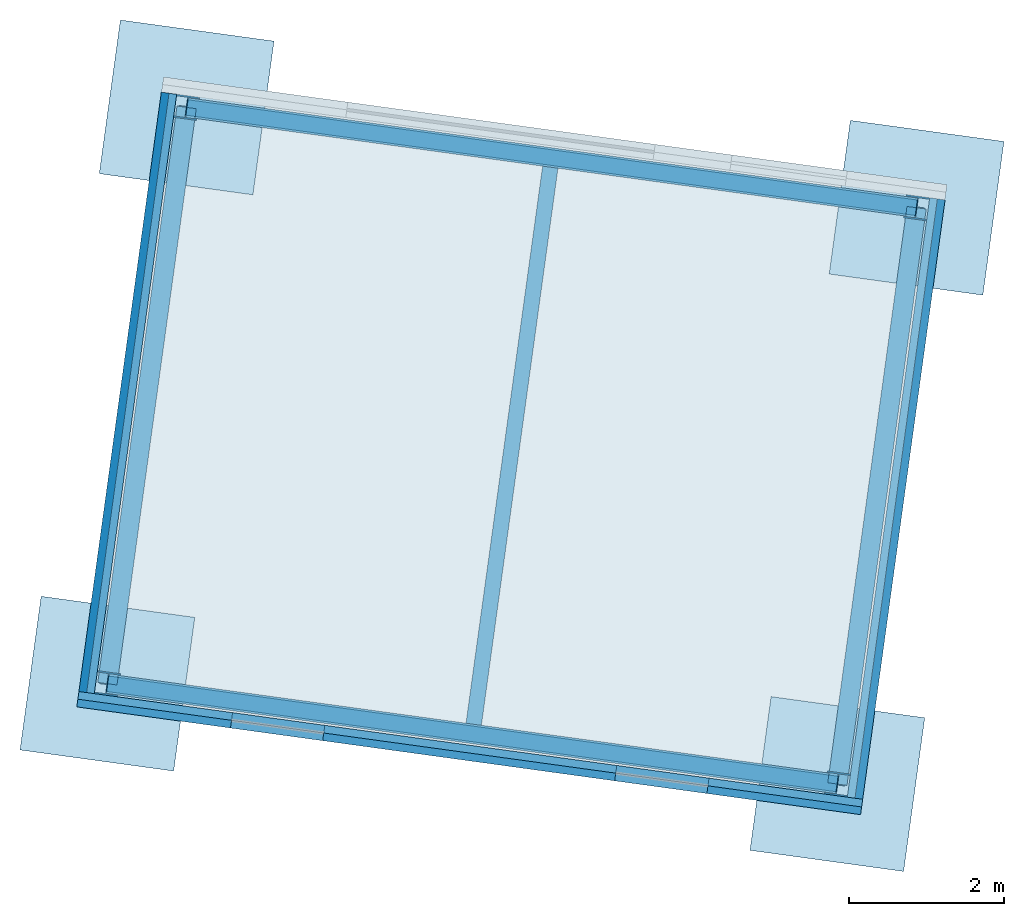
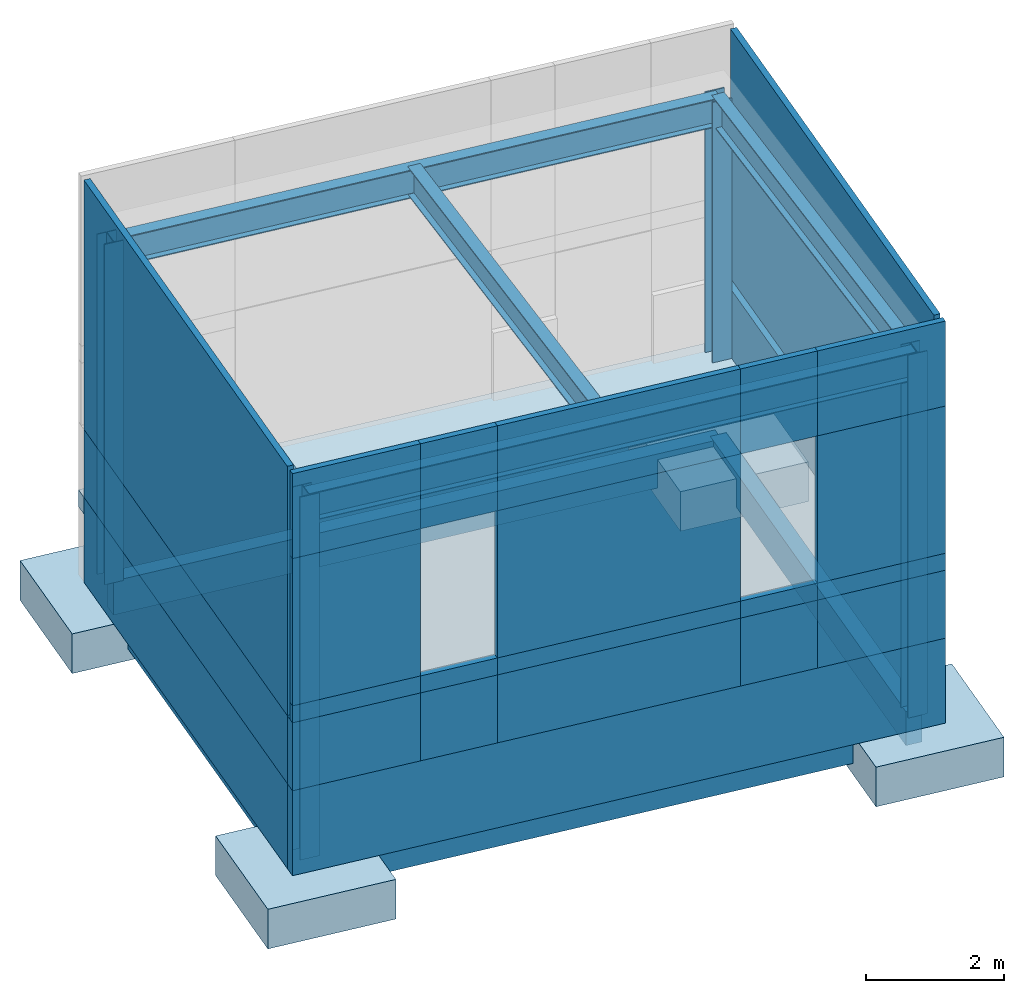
# One storey, part 1 of 3: 24 walls, 9 beams, 4 columns, 4 footings, 1 slab.
"""IFC4 building model written with IfcOpenShell, lengths in metres."""

import ifcopenshell
import ifcopenshell.guid

model = None  # the IFC model being written
_history = None  # IfcOwnerHistory: only IFC2X3 demands one
_inside = {}  # id of a spatial element -> (the spatial element, [elements in it])
_under = {}  # id of a project, library or spatial element -> (it, [spatial elements below it])
_declared = {}  # id of a project -> (the project, [libraries it declares])
_typed = {}  # id of a type object -> (the type object, [elements of that type])
_made_of = {}  # id of a material, layer set ... -> (it, [elements and type objects made of it])


def new_model(schema):
    """Start an empty IFC model of exactly this schema.

    Asked for "IFC4X3", IfcOpenShell would pick the latest addendum, in which some entities
    have other attributes; the version numbers below select the first issue.
    IFC2X3 requires an IfcOwnerHistory on every rooted entity: one is made here for all.
    """
    global model, _history
    if schema == "IFC4X3":
        model = ifcopenshell.file(schema_version=(4, 3, 0, 0))
    else:
        model = ifcopenshell.file(schema=schema)
    _inside.clear()
    _under.clear()
    _declared.clear()
    _typed.clear()
    _made_of.clear()
    _history = None
    if model.schema == "IFC2X3":
        org = make("IfcOrganization", Name="unknown")
        user = make(
            "IfcPersonAndOrganization",
            ThePerson=make("IfcPerson", FamilyName="unknown"),
            TheOrganization=org,
        )
        app = make(
            "IfcApplication",
            ApplicationDeveloper=org,
            Version="unknown",
            ApplicationFullName="unknown",
            ApplicationIdentifier="unknown",
        )
        _history = make(
            "IfcOwnerHistory",
            OwningUser=user,
            OwningApplication=app,
            ChangeAction="ADDED",
            CreationDate=0,
        )
    return model


def make(cls, **values):
    """One entity of the class cls with the attributes given. An attribute that is None is left unset."""
    return model.create_entity(
        cls, **{name: value for name, value in values.items() if value is not None}
    )


def rooted(cls, **values):
    """An entity with a GlobalId (a new one), such as an element, a storey or a relation."""
    return make(cls, GlobalId=ifcopenshell.guid.new(), OwnerHistory=_history, **values)


def si_unit(unit_type, name, prefix=None):
    """IfcSIUnit, for example si_unit("LENGTHUNIT", "METRE", prefix="MILLI")."""
    return make("IfcSIUnit", UnitType=unit_type, Prefix=prefix, Name=name)


def assignment(units):
    """IfcUnitAssignment: the units of a project."""
    return None if units is None else make("IfcUnitAssignment", Units=units)


def point(xyz):
    """IfcCartesianPoint."""
    return None if xyz is None else make("IfcCartesianPoint", Coordinates=xyz)


def direction(xyz):
    """IfcDirection."""
    return None if xyz is None else make("IfcDirection", DirectionRatios=xyz)


def frame(location, z_axis=None, x_axis=None):
    """IfcAxis2Placement3D, a coordinate frame: its origin and axes. An axis left out is left unset."""
    return make(
        "IfcAxis2Placement3D",
        Location=point(location),
        Axis=direction(z_axis),
        RefDirection=direction(x_axis),
    )


def origin_with_axes():
    """The frame at (0, 0, 0) with the z axis (0, 0, 1) and the x axis (1, 0, 0) written out."""
    return frame((0.0, 0.0, 0.0), z_axis=(0.0, 0.0, 1.0), x_axis=(1.0, 0.0, 0.0))


def place(relative_to, where):
    """IfcLocalPlacement: puts the frame where relative to a parent placement (None: the world)."""
    return make(
        "IfcLocalPlacement", PlacementRelTo=relative_to, RelativePlacement=where
    )


def context(
    kind, dimensions, precision=None, world=None, true_north=None, identifier=None
):
    """IfcGeometricRepresentationContext, for example the 3D "Model" context."""
    return make(
        "IfcGeometricRepresentationContext",
        ContextIdentifier=identifier,
        ContextType=kind,
        CoordinateSpaceDimension=dimensions,
        Precision=precision,
        WorldCoordinateSystem=world,
        TrueNorth=true_north,
    )


def subcontext(parent, identifier, kind, view, scale=None):
    """IfcGeometricRepresentationSubContext, for example "Body" below "Model"."""
    return make(
        "IfcGeometricRepresentationSubContext",
        ContextIdentifier=identifier,
        ContextType=kind,
        ParentContext=parent,
        TargetScale=scale,
        TargetView=view,
    )


def project(units=None, contexts=None):
    """IfcProject with its units and contexts."""
    return rooted(
        "IfcProject",
        Name="project",
        RepresentationContexts=contexts,
        UnitsInContext=assignment(units),
    )


def spatial(cls, under=None, at=None, **own):
    """A site, building, storey or space (cls), placed at a placement, below another one or the project."""
    s = rooted(cls, ObjectPlacement=at, **own)
    if under is not None:
        _under.setdefault(under.id(), (under, []))[1].append(s)
    return s


def point_list(points):
    """IfcCartesianPointList2D or 3D."""
    cls = (
        "IfcCartesianPointList2D" if len(points[0]) == 2 else "IfcCartesianPointList3D"
    )
    return make(cls, CoordList=points)


def triangles(points, corners, closed=None, point_numbers=None):
    """IfcTriangulatedFaceSet: each triangle names its three corners, points numbered from 1."""
    return make(
        "IfcTriangulatedFaceSet",
        Coordinates=point_list(points),
        Closed=closed,
        CoordIndex=corners,
        PnIndex=point_numbers,
    )


def shape(context_of_items, identifier, shape_type, items):
    """IfcShapeRepresentation: the items that make up one representation, for example the "Body"."""
    return make(
        "IfcShapeRepresentation",
        ContextOfItems=context_of_items,
        RepresentationIdentifier=identifier,
        RepresentationType=shape_type,
        Items=items,
    )


def material(Name=None, Category=None):
    """IfcMaterial."""
    return make("IfcMaterial", Name=Name, Category=Category)


def made_of(thing, what):
    """Note that an element or type object is made of a material, layer set ...; save() writes the relation."""
    if what is not None:
        _made_of.setdefault(what.id(), (what, []))[1].append(thing)
    return thing


def element(
    cls,
    number,
    at=None,
    inside=None,
    cuts=None,
    type_object=None,
    material=None,
    context=None,
    identifier="Body",
    shape_type=None,
    held_by="IfcProductDefinitionShape",
    body=None,
    shapes=None,
    **own,
):
    """One element of the class cls, such as IfcWall. Its Tag is "e" and its number.

    at: its placement. inside: the storey or other place that contains it. cuts: it is an
    opening in that element (IfcRelVoidsElement). A single representation is given by context,
    identifier, shape_type and body (its items); several are given by shapes. held_by: the class
    of the entity that holds the representations. save() writes the other relations.
    """
    e = rooted(cls, Tag="e%d" % number, ObjectPlacement=at, **own)
    if body is not None:
        shapes = [shape(context, identifier, shape_type, body)]
    if shapes is not None:
        e.Representation = make(held_by, Representations=shapes)
    if inside is not None:
        _inside.setdefault(inside.id(), (inside, []))[1].append(e)
    if cuts is not None:
        rooted(
            "IfcRelVoidsElement", RelatingBuildingElement=cuts, RelatedOpeningElement=e
        )
    if type_object is not None:
        _typed.setdefault(type_object.id(), (type_object, []))[1].append(e)
    return made_of(e, material)


def aggregate(whole, parts):
    """IfcRelAggregates: a whole, such as a stair, and the parts it consists of."""
    return rooted("IfcRelAggregates", RelatingObject=whole, RelatedObjects=parts)


def save(model, path):
    """Write the relations noted so far, then the file.

    IfcRelAggregates (storeys below a building ...), IfcRelContainedInSpatialStructure (elements
    in a storey), IfcRelDefinesByType, IfcRelAssociatesMaterial and IfcRelDeclares: one each for
    every whole, place, type object, material and project.
    """
    for whole, parts in _under.values():
        aggregate(whole, parts)
    for where, things in _inside.values():
        rooted(
            "IfcRelContainedInSpatialStructure",
            RelatedElements=things,
            RelatingStructure=where,
        )
    for kind, things in _typed.values():
        rooted("IfcRelDefinesByType", RelatedObjects=things, RelatingType=kind)
    for what, things in _made_of.values():
        rooted("IfcRelAssociatesMaterial", RelatedObjects=things, RelatingMaterial=what)
    for by, libraries in _declared.values():
        rooted("IfcRelDeclares", RelatingContext=by, RelatedDefinitions=libraries)
    model.write(path)


model = new_model("IFC4")

# Units and contexts
model_context = context("Model", 3, precision=1e-05, world=origin_with_axes(), true_north=direction((0.0, 1.0)))
body_context = subcontext(model_context, "Body", "Model", "MODEL_VIEW")
ifc_project = project(units=[si_unit("AREAUNIT", "SQUARE_METRE"), si_unit("VOLUMEUNIT", "CUBIC_METRE"), si_unit("LENGTHUNIT", "METRE")], contexts=[model_context])

# Site, building, storey
site_placement = place(None, origin_with_axes())
site = spatial("IfcSite", under=ifc_project, at=site_placement, Name="Parcela industrial Jinhong")
building_placement = place(site_placement, origin_with_axes())
building = spatial("IfcBuilding", under=site, at=building_placement, Name="Sala de bombas contra incendios")
storey_placement = place(building_placement, origin_with_axes())
storey = spatial("IfcBuildingStorey", under=building, at=storey_placement, Name="Planta baja", Elevation=1.25)

# Footings
ifc_material_1 = material(Name="Hormigón armado HA-30", Category="Material documentado")
footing_1_placement = place(storey_placement, origin_with_axes())
element("IfcFooting", 1, at=footing_1_placement, inside=storey, material=ifc_material_1, Name="Sala de bombas contra incendios · zapata aislada BASE1 · 1", PredefinedType="PAD_FOOTING", context=body_context, shape_type="Tessellation", body=[
    triangles([(7.383617, 26.238439, -0.95), (9.364978, 25.966031, -0.95), (9.637386, 27.947392, -0.95), (7.656024, 28.2198, -0.95), (7.383617, 26.238439, -0.25), (9.364978, 25.966031, -0.25), (9.637386, 27.947392, -0.25), (7.656024, 28.2198, -0.25)], [[2, 1, 4], [4, 3, 2], [8, 5, 6], [6, 7, 8], [1, 2, 6], [1, 6, 5], [2, 3, 7], [2, 7, 6], [3, 4, 8], [3, 8, 7], [4, 1, 5], [4, 5, 8]], closed=True),
])
footing_2_placement = place(storey_placement, origin_with_axes())
element("IfcFooting", 2, at=footing_2_placement, inside=storey, material=ifc_material_1, Name="Sala de bombas contra incendios · zapata aislada BASE1 · 2", PredefinedType="PAD_FOOTING", context=body_context, shape_type="Tessellation", body=[
    triangles([(16.795084, 24.944501, -0.95), (18.776446, 24.672094, -0.95), (19.048854, 26.653455, -0.95), (17.067492, 26.925863, -0.95), (16.795084, 24.944501, -0.25), (18.776446, 24.672094, -0.25), (19.048854, 26.653455, -0.25), (17.067492, 26.925863, -0.25)], [[2, 1, 4], [4, 3, 2], [8, 5, 6], [6, 7, 8], [1, 2, 6], [1, 6, 5], [2, 3, 7], [2, 7, 6], [3, 4, 8], [3, 8, 7], [4, 1, 5], [4, 5, 8]], closed=True),
])
footing_3_placement = place(storey_placement, origin_with_axes())
element("IfcFooting", 3, at=footing_3_placement, inside=storey, material=ifc_material_1, Name="Sala de bombas contra incendios · zapata aislada BASE1 · 3", PredefinedType="PAD_FOOTING", context=body_context, shape_type="Tessellation", body=[
    triangles([(8.405146, 33.668545, -0.95), (10.386508, 33.396137, -0.95), (10.658916, 35.377499, -0.95), (8.677554, 35.649906, -0.95), (8.405146, 33.668545, -0.25), (10.386508, 33.396137, -0.25), (10.658916, 35.377499, -0.25), (8.677554, 35.649906, -0.25)], [[2, 1, 4], [4, 3, 2], [8, 5, 6], [6, 7, 8], [1, 2, 6], [1, 6, 5], [2, 3, 7], [2, 7, 6], [3, 4, 8], [3, 8, 7], [4, 1, 5], [4, 5, 8]], closed=True),
])
footing_4_placement = place(storey_placement, origin_with_axes())
element("IfcFooting", 4, at=footing_4_placement, inside=storey, material=ifc_material_1, Name="Sala de bombas contra incendios · zapata aislada BASE1 · 4", PredefinedType="PAD_FOOTING", context=body_context, shape_type="Tessellation", body=[
    triangles([(17.816614, 32.374608, -0.95), (19.797976, 32.1022, -0.95), (20.070383, 34.083561, -0.95), (18.089022, 34.355969, -0.95), (17.816614, 32.374608, -0.25), (19.797976, 32.1022, -0.25), (20.070383, 34.083561, -0.25), (18.089022, 34.355969, -0.25)], [[2, 1, 4], [4, 3, 2], [8, 5, 6], [6, 7, 8], [1, 2, 6], [1, 6, 5], [2, 3, 7], [2, 7, 6], [3, 4, 8], [3, 8, 7], [4, 1, 5], [4, 5, 8]], closed=True),
])

# Columns
ifc_material_2 = material(Name="Acero estructural S355JR", Category="Material documentado")
column_1_placement = place(storey_placement, origin_with_axes())
element("IfcColumn", 5, at=column_1_placement, inside=storey, material=ifc_material_2, Name="Sala de bombas contra incendios · pilar HEB300 · 1", PredefinedType="COLUMN", context=body_context, shape_type="Tessellation", body=[
    triangles([(8.341469, 26.964744, -0.16), (8.638673, 26.923883, -0.16), (8.641261, 26.942706, -0.16), (8.498107, 26.962387, -0.16), (8.533793, 27.221946, -0.16), (8.676946, 27.202264, -0.16), (8.679534, 27.221087, -0.16), (8.38233, 27.261948, -0.16), (8.379742, 27.243125, -0.16), (8.522895, 27.223444, -0.16), (8.48721, 26.963885, -0.16), (8.344057, 26.983567, -0.16), (8.341469, 26.964744, 6.25), (8.638673, 26.923883, 6.25), (8.641261, 26.942706, 6.25), (8.498107, 26.962387, 6.25), (8.533793, 27.221946, 6.25), (8.676946, 27.202264, 6.25), (8.679534, 27.221087, 6.25), (8.38233, 27.261948, 6.25), (8.379742, 27.243125, 6.25), (8.522895, 27.223444, 6.25), (8.48721, 26.963885, 6.25), (8.344057, 26.983567, 6.25)], [[2, 1, 12], [4, 3, 2], [7, 6, 5], [8, 7, 5], [10, 9, 8], [10, 8, 5], [10, 5, 4], [11, 10, 4], [11, 4, 2], [12, 11, 2], [24, 13, 14], [14, 15, 16], [17, 18, 19], [17, 19, 20], [20, 21, 22], [17, 20, 22], [16, 17, 22], [16, 22, 23], [14, 16, 23], [14, 23, 24], [1, 2, 14], [1, 14, 13], [2, 3, 15], [2, 15, 14], [3, 4, 16], [3, 16, 15], [4, 5, 17], [4, 17, 16], [5, 6, 18], [5, 18, 17], [6, 7, 19], [6, 19, 18], [7, 8, 20], [7, 20, 19], [8, 9, 21], [8, 21, 20], [9, 10, 22], [9, 22, 21], [10, 11, 23], [10, 23, 22], [11, 12, 24], [11, 24, 23], [12, 1, 13], [12, 13, 24]], closed=True),
])
column_2_placement = place(storey_placement, origin_with_axes())
element("IfcColumn", 6, at=column_2_placement, inside=storey, material=ifc_material_2, Name="Sala de bombas contra incendios · pilar HEB300 · 2", PredefinedType="COLUMN", context=body_context, shape_type="Tessellation", body=[
    triangles([(17.752936, 25.670807, -0.16), (18.050141, 25.629946, -0.16), (18.052729, 25.648768, -0.16), (17.909575, 25.66845, -0.16), (17.945261, 25.928008, -0.16), (18.088414, 25.908327, -0.16), (18.091002, 25.92715, -0.16), (17.793798, 25.968011, -0.16), (17.79121, 25.949188, -0.16), (17.934363, 25.929507, -0.16), (17.898678, 25.669948, -0.16), (17.755524, 25.68963, -0.16), (17.752936, 25.670807, 6.25), (18.050141, 25.629946, 6.25), (18.052729, 25.648768, 6.25), (17.909575, 25.66845, 6.25), (17.945261, 25.928008, 6.25), (18.088414, 25.908327, 6.25), (18.091002, 25.92715, 6.25), (17.793798, 25.968011, 6.25), (17.79121, 25.949188, 6.25), (17.934363, 25.929507, 6.25), (17.898678, 25.669948, 6.25), (17.755524, 25.68963, 6.25)], [[2, 1, 12], [4, 3, 2], [7, 6, 5], [8, 7, 5], [10, 9, 8], [10, 8, 5], [10, 5, 4], [11, 10, 4], [11, 4, 2], [12, 11, 2], [24, 13, 14], [14, 15, 16], [17, 18, 19], [17, 19, 20], [20, 21, 22], [17, 20, 22], [16, 17, 22], [16, 22, 23], [14, 16, 23], [14, 23, 24], [1, 2, 14], [1, 14, 13], [2, 3, 15], [2, 15, 14], [3, 4, 16], [3, 16, 15], [4, 5, 17], [4, 17, 16], [5, 6, 18], [5, 18, 17], [6, 7, 19], [6, 19, 18], [7, 8, 20], [7, 20, 19], [8, 9, 21], [8, 21, 20], [9, 10, 22], [9, 22, 21], [10, 11, 23], [10, 23, 22], [11, 12, 24], [11, 24, 23], [12, 1, 13], [12, 13, 24]], closed=True),
])
column_3_placement = place(storey_placement, origin_with_axes())
element("IfcColumn", 7, at=column_3_placement, inside=storey, material=ifc_material_2, Name="Sala de bombas contra incendios · pilar HEB300 · 3", PredefinedType="COLUMN", context=body_context, shape_type="Tessellation", body=[
    triangles([(9.362998, 34.39485, -0.16), (9.660202, 34.353989, -0.16), (9.66279, 34.372812, -0.16), (9.519637, 34.392493, -0.16), (9.555322, 34.652052, -0.16), (9.698476, 34.63237, -0.16), (9.701064, 34.651193, -0.16), (9.403859, 34.692054, -0.16), (9.401271, 34.673232, -0.16), (9.544425, 34.65355, -0.16), (9.508739, 34.393992, -0.16), (9.365586, 34.413673, -0.16), (9.362998, 34.39485, 5.85), (9.660202, 34.353989, 5.85), (9.66279, 34.372812, 5.85), (9.519637, 34.392493, 5.85), (9.555322, 34.652052, 5.85), (9.698476, 34.63237, 5.85), (9.701064, 34.651193, 5.85), (9.403859, 34.692054, 5.85), (9.401271, 34.673232, 5.85), (9.544425, 34.65355, 5.85), (9.508739, 34.393992, 5.85), (9.365586, 34.413673, 5.85)], [[2, 1, 12], [4, 3, 2], [7, 6, 5], [8, 7, 5], [10, 9, 8], [10, 8, 5], [10, 5, 4], [11, 10, 4], [11, 4, 2], [12, 11, 2], [24, 13, 14], [14, 15, 16], [17, 18, 19], [17, 19, 20], [20, 21, 22], [17, 20, 22], [16, 17, 22], [16, 22, 23], [14, 16, 23], [14, 23, 24], [1, 2, 14], [1, 14, 13], [2, 3, 15], [2, 15, 14], [3, 4, 16], [3, 16, 15], [4, 5, 17], [4, 17, 16], [5, 6, 18], [5, 18, 17], [6, 7, 19], [6, 19, 18], [7, 8, 20], [7, 20, 19], [8, 9, 21], [8, 21, 20], [9, 10, 22], [9, 22, 21], [10, 11, 23], [10, 23, 22], [11, 12, 24], [11, 24, 23], [12, 1, 13], [12, 13, 24]], closed=True),
])
column_4_placement = place(storey_placement, origin_with_axes())
element("IfcColumn", 8, at=column_4_placement, inside=storey, material=ifc_material_2, Name="Sala de bombas contra incendios · pilar HEB300 · 4", PredefinedType="COLUMN", context=body_context, shape_type="Tessellation", body=[
    triangles([(18.774466, 33.100913, -0.16), (19.07167, 33.060052, -0.16), (19.074258, 33.078875, -0.16), (18.931105, 33.098556, -0.16), (18.96679, 33.358115, -0.16), (19.109943, 33.338433, -0.16), (19.112531, 33.357256, -0.16), (18.815327, 33.398117, -0.16), (18.812739, 33.379294, -0.16), (18.955893, 33.359613, -0.16), (18.920207, 33.100054, -0.16), (18.777054, 33.119736, -0.16), (18.774466, 33.100913, 5.85), (19.07167, 33.060052, 5.85), (19.074258, 33.078875, 5.85), (18.931105, 33.098556, 5.85), (18.96679, 33.358115, 5.85), (19.109943, 33.338433, 5.85), (19.112531, 33.357256, 5.85), (18.815327, 33.398117, 5.85), (18.812739, 33.379294, 5.85), (18.955893, 33.359613, 5.85), (18.920207, 33.100054, 5.85), (18.777054, 33.119736, 5.85)], [[2, 1, 12], [4, 3, 2], [7, 6, 5], [8, 7, 5], [10, 9, 8], [10, 8, 5], [10, 5, 4], [11, 10, 4], [11, 4, 2], [12, 11, 2], [24, 13, 14], [14, 15, 16], [17, 18, 19], [17, 19, 20], [20, 21, 22], [17, 20, 22], [16, 17, 22], [16, 22, 23], [14, 16, 23], [14, 23, 24], [1, 2, 14], [1, 14, 13], [2, 3, 15], [2, 15, 14], [3, 4, 16], [3, 16, 15], [4, 5, 17], [4, 17, 16], [5, 6, 18], [5, 18, 17], [6, 7, 19], [6, 19, 18], [7, 8, 20], [7, 20, 19], [8, 9, 21], [8, 21, 20], [9, 10, 22], [9, 22, 21], [10, 11, 23], [10, 23, 22], [11, 12, 24], [11, 24, 23], [12, 1, 13], [12, 13, 24]], closed=True),
])

# Beams
ifc_material_3 = material(Name="Acero estructural S355JR", Category="Material documentado")
beam_1_placement = place(storey_placement, origin_with_axes())
element("IfcBeam", 9, at=beam_1_placement, inside=storey, material=ifc_material_3, Name="Sala de bombas contra incendios · viga de cubierta IPE500 · 1", PredefinedType="BEAM", context=body_context, shape_type="Tessellation", body=[
    triangles([(8.496881, 26.993847, 5.7375), (8.524122, 27.191984, 5.7375), (8.524122, 27.191984, 5.7535), (8.511196, 27.097968, 5.7535), (8.511196, 27.097968, 6.2215), (8.524122, 27.191984, 6.2215), (8.524122, 27.191984, 6.2375), (8.496881, 26.993847, 6.2375), (8.496881, 26.993847, 6.2215), (8.509807, 27.087863, 6.2215), (8.509807, 27.087863, 5.7535), (8.496881, 26.993847, 5.7535), (17.908349, 25.69991, 5.7375), (17.93559, 25.898046, 5.7375), (17.93559, 25.898046, 5.7535), (17.922664, 25.804031, 5.7535), (17.922664, 25.804031, 6.2215), (17.93559, 25.898046, 6.2215), (17.93559, 25.898046, 6.2375), (17.908349, 25.69991, 6.2375), (17.908349, 25.69991, 6.2215), (17.921275, 25.793926, 6.2215), (17.921275, 25.793926, 5.7535), (17.908349, 25.69991, 5.7535)], [[2, 1, 12], [4, 3, 2], [7, 6, 5], [8, 7, 5], [10, 9, 8], [10, 8, 5], [10, 5, 4], [11, 10, 4], [11, 4, 2], [12, 11, 2], [24, 13, 14], [14, 15, 16], [17, 18, 19], [17, 19, 20], [20, 21, 22], [17, 20, 22], [16, 17, 22], [16, 22, 23], [14, 16, 23], [14, 23, 24], [1, 2, 14], [1, 14, 13], [2, 3, 15], [2, 15, 14], [3, 4, 16], [3, 16, 15], [4, 5, 17], [4, 17, 16], [5, 6, 18], [5, 18, 17], [6, 7, 19], [6, 19, 18], [7, 8, 20], [7, 20, 19], [8, 9, 21], [8, 21, 20], [9, 10, 22], [9, 22, 21], [10, 11, 23], [10, 23, 22], [11, 12, 24], [11, 24, 23], [12, 1, 13], [12, 13, 24]], closed=True),
])
beam_2_placement = place(storey_placement, origin_with_axes())
element("IfcBeam", 10, at=beam_2_placement, inside=storey, material=ifc_material_3, Name="Sala de bombas contra incendios · viga de cubierta IPE500 · 2", PredefinedType="BEAM", context=body_context, shape_type="Tessellation", body=[
    triangles([(9.51841, 34.423954, 5.3625), (9.545651, 34.62209, 5.3625), (9.545651, 34.62209, 5.3785), (9.532725, 34.528074, 5.3785), (9.532725, 34.528074, 5.8465), (9.545651, 34.62209, 5.8465), (9.545651, 34.62209, 5.8625), (9.51841, 34.423954, 5.8625), (9.51841, 34.423954, 5.8465), (9.531336, 34.517969, 5.8465), (9.531336, 34.517969, 5.3785), (9.51841, 34.423954, 5.3785), (18.929878, 33.130016, 5.3625), (18.957119, 33.328153, 5.3625), (18.957119, 33.328153, 5.3785), (18.944193, 33.234137, 5.3785), (18.944193, 33.234137, 5.8465), (18.957119, 33.328153, 5.8465), (18.957119, 33.328153, 5.8625), (18.929878, 33.130016, 5.8625), (18.929878, 33.130016, 5.8465), (18.942804, 33.224032, 5.8465), (18.942804, 33.224032, 5.3785), (18.929878, 33.130016, 5.3785)], [[2, 1, 12], [4, 3, 2], [7, 6, 5], [8, 7, 5], [10, 9, 8], [10, 8, 5], [10, 5, 4], [11, 10, 4], [11, 4, 2], [12, 11, 2], [24, 13, 14], [14, 15, 16], [17, 18, 19], [17, 19, 20], [20, 21, 22], [17, 20, 22], [16, 17, 22], [16, 22, 23], [14, 16, 23], [14, 23, 24], [1, 2, 14], [1, 14, 13], [2, 3, 15], [2, 15, 14], [3, 4, 16], [3, 16, 15], [4, 5, 17], [4, 17, 16], [5, 6, 18], [5, 18, 17], [6, 7, 19], [6, 19, 18], [7, 8, 20], [7, 20, 19], [8, 9, 21], [8, 21, 20], [9, 10, 22], [9, 22, 21], [10, 11, 23], [10, 23, 22], [11, 12, 24], [11, 24, 23], [12, 1, 13], [12, 13, 24]], closed=True),
])
beam_3_placement = place(storey_placement, origin_with_axes())
element("IfcBeam", 11, at=beam_3_placement, inside=storey, material=ifc_material_3, Name="Sala de bombas contra incendios · viga de cubierta IPE500 · 3", PredefinedType="BEAM", context=body_context, shape_type="Tessellation", body=[
    triangles([(8.607869, 27.066928, 5.737812), (8.409733, 27.094168, 5.737812), (8.409842, 27.09496, 5.753792), (8.503857, 27.082034, 5.753792), (8.50704, 27.105186, 6.221208), (8.413025, 27.118112, 6.221208), (8.413134, 27.118904, 6.237188), (8.61127, 27.091663, 6.237188), (8.611161, 27.090871, 6.221208), (8.517145, 27.103797, 6.221208), (8.513962, 27.080645, 5.753792), (8.607978, 27.067719, 5.753792), (9.629399, 34.497034, 5.362812), (9.431262, 34.524274, 5.362812), (9.431371, 34.525066, 5.378792), (9.525387, 34.51214, 5.378792), (9.52857, 34.535292, 5.846208), (9.434554, 34.548218, 5.846208), (9.434663, 34.54901, 5.862188), (9.632799, 34.521769, 5.862188), (9.63269, 34.520977, 5.846208), (9.538675, 34.533903, 5.846208), (9.535492, 34.510751, 5.378792), (9.629507, 34.497825, 5.378792)], [[2, 1, 12], [4, 3, 2], [7, 6, 5], [8, 7, 5], [10, 9, 8], [10, 8, 5], [10, 5, 4], [11, 10, 4], [11, 4, 2], [12, 11, 2], [24, 13, 14], [14, 15, 16], [17, 18, 19], [17, 19, 20], [20, 21, 22], [17, 20, 22], [16, 17, 22], [16, 22, 23], [14, 16, 23], [14, 23, 24], [1, 2, 14], [1, 14, 13], [2, 3, 15], [2, 15, 14], [3, 4, 16], [3, 16, 15], [4, 5, 17], [4, 17, 16], [5, 6, 18], [5, 18, 17], [6, 7, 19], [6, 19, 18], [7, 8, 20], [7, 20, 19], [8, 9, 21], [8, 21, 20], [9, 10, 22], [9, 22, 21], [10, 11, 23], [10, 23, 22], [11, 12, 24], [11, 24, 23], [12, 1, 13], [12, 13, 24]], closed=True),
])
beam_4_placement = place(storey_placement, origin_with_axes())
element("IfcBeam", 12, at=beam_4_placement, inside=storey, material=ifc_material_3, Name="Sala de bombas contra incendios · viga de cubierta IPE500 · 4", PredefinedType="BEAM", context=body_context, shape_type="Tessellation", body=[
    triangles([(18.019337, 25.77299, 5.737812), (17.821201, 25.800231, 5.737812), (17.82131, 25.801023, 5.753792), (17.915325, 25.788097, 5.753792), (17.918508, 25.811249, 6.221208), (17.824493, 25.824175, 6.221208), (17.824601, 25.824966, 6.237188), (18.022738, 25.797726, 6.237188), (18.022629, 25.796934, 6.221208), (17.928613, 25.80986, 6.221208), (17.92543, 25.786708, 5.753792), (18.019446, 25.773782, 5.753792), (19.040866, 33.203096, 5.362812), (18.84273, 33.230337, 5.362812), (18.842839, 33.231129, 5.378792), (18.936855, 33.218203, 5.378792), (18.940038, 33.241355, 5.846208), (18.846022, 33.254281, 5.846208), (18.846131, 33.255072, 5.862188), (19.044267, 33.227832, 5.862188), (19.044158, 33.22704, 5.846208), (18.950143, 33.239966, 5.846208), (18.94696, 33.216814, 5.378792), (19.040975, 33.203888, 5.378792)], [[2, 1, 12], [4, 3, 2], [7, 6, 5], [8, 7, 5], [10, 9, 8], [10, 8, 5], [10, 5, 4], [11, 10, 4], [11, 4, 2], [12, 11, 2], [24, 13, 14], [14, 15, 16], [17, 18, 19], [17, 19, 20], [20, 21, 22], [17, 20, 22], [16, 17, 22], [16, 22, 23], [14, 16, 23], [14, 23, 24], [1, 2, 14], [1, 14, 13], [2, 3, 15], [2, 15, 14], [3, 4, 16], [3, 16, 15], [4, 5, 17], [4, 17, 16], [5, 6, 18], [5, 18, 17], [6, 7, 19], [6, 19, 18], [7, 8, 20], [7, 20, 19], [8, 9, 21], [8, 21, 20], [9, 10, 22], [9, 22, 21], [10, 11, 23], [10, 23, 22], [11, 12, 24], [11, 24, 23], [12, 1, 13], [12, 13, 24]], closed=True),
])
beam_5_placement = place(storey_placement, origin_with_axes())
element("IfcBeam", 13, at=beam_5_placement, inside=storey, material=ifc_material_3, Name="Sala de bombas contra incendios · viga de cubierta IPE500 · 5", PredefinedType="BEAM", context=body_context, shape_type="Tessellation", body=[
    triangles([(13.313603, 26.419959, 5.737812), (13.115467, 26.4472, 5.737812), (13.115576, 26.447991, 5.753792), (13.209591, 26.435065, 5.753792), (13.212774, 26.458218, 6.221208), (13.118759, 26.471143, 6.221208), (13.118868, 26.471935, 6.237188), (13.317004, 26.444694, 6.237188), (13.316895, 26.443903, 6.221208), (13.222879, 26.456828, 6.221208), (13.219696, 26.433676, 5.753792), (13.313712, 26.42075, 5.753792), (14.335132, 33.850065, 5.362812), (14.136996, 33.877306, 5.362812), (14.137105, 33.878097, 5.378792), (14.231121, 33.865172, 5.378792), (14.234304, 33.888324, 5.846208), (14.140288, 33.90125, 5.846208), (14.140397, 33.902041, 5.862188), (14.338533, 33.8748, 5.862188), (14.338424, 33.874009, 5.846208), (14.244409, 33.886935, 5.846208), (14.241226, 33.863782, 5.378792), (14.335241, 33.850857, 5.378792)], [[2, 1, 12], [4, 3, 2], [7, 6, 5], [8, 7, 5], [10, 9, 8], [10, 8, 5], [10, 5, 4], [11, 10, 4], [11, 4, 2], [12, 11, 2], [24, 13, 14], [14, 15, 16], [17, 18, 19], [17, 19, 20], [20, 21, 22], [17, 20, 22], [16, 17, 22], [16, 22, 23], [14, 16, 23], [14, 23, 24], [1, 2, 14], [1, 14, 13], [2, 3, 15], [2, 15, 14], [3, 4, 16], [3, 16, 15], [4, 5, 17], [4, 17, 16], [5, 6, 18], [5, 18, 17], [6, 7, 19], [6, 19, 18], [7, 8, 20], [7, 20, 19], [8, 9, 21], [8, 21, 20], [9, 10, 22], [9, 22, 21], [10, 11, 23], [10, 23, 22], [11, 12, 24], [11, 24, 23], [12, 1, 13], [12, 13, 24]], closed=True),
])
beam_6_placement = place(storey_placement, origin_with_axes())
element("IfcBeam", 14, at=beam_6_placement, inside=storey, material=ifc_material_1, Name="Sala de bombas contra incendios · viga de atado VC1 · 1", PredefinedType="BEAM", context=body_context, shape_type="Tessellation", body=[
    triangles([(8.493476, 26.96908, -0.75), (8.527527, 27.216751, -0.75), (8.527527, 27.216751, -0.15), (8.493476, 26.96908, -0.15), (17.904944, 25.675143, -0.75), (17.938995, 25.922813, -0.75), (17.938995, 25.922813, -0.15), (17.904944, 25.675143, -0.15)], [[2, 1, 4], [4, 3, 2], [8, 5, 6], [6, 7, 8], [1, 2, 6], [1, 6, 5], [2, 3, 7], [2, 7, 6], [3, 4, 8], [3, 8, 7], [4, 1, 5], [4, 5, 8]], closed=True),
])
beam_7_placement = place(storey_placement, origin_with_axes())
element("IfcBeam", 15, at=beam_7_placement, inside=storey, material=ifc_material_1, Name="Sala de bombas contra incendios · viga de atado VC1 · 2", PredefinedType="BEAM", context=body_context, shape_type="Tessellation", body=[
    triangles([(9.515005, 34.399187, -0.75), (9.549056, 34.646857, -0.75), (9.549056, 34.646857, -0.15), (9.515005, 34.399187, -0.15), (18.926473, 33.105249, -0.75), (18.960524, 33.35292, -0.75), (18.960524, 33.35292, -0.15), (18.926473, 33.105249, -0.15)], [[2, 1, 4], [4, 3, 2], [8, 5, 6], [6, 7, 8], [1, 2, 6], [1, 6, 5], [2, 3, 7], [2, 7, 6], [3, 4, 8], [3, 8, 7], [4, 1, 5], [4, 5, 8]], closed=True),
])
beam_8_placement = place(storey_placement, origin_with_axes())
element("IfcBeam", 16, at=beam_8_placement, inside=storey, material=ifc_material_1, Name="Sala de bombas contra incendios · viga de atado VC1 · 3", PredefinedType="BEAM", context=body_context, shape_type="Tessellation", body=[
    triangles([(8.634336, 27.07589, -0.75), (8.386666, 27.109941, -0.75), (8.386666, 27.109941, -0.15), (8.634336, 27.07589, -0.15), (9.655866, 34.505996, -0.75), (9.408196, 34.540047, -0.75), (9.408196, 34.540047, -0.15), (9.655866, 34.505996, -0.15)], [[2, 1, 4], [4, 3, 2], [8, 5, 6], [6, 7, 8], [1, 2, 6], [1, 6, 5], [2, 3, 7], [2, 7, 6], [3, 4, 8], [3, 8, 7], [4, 1, 5], [4, 5, 8]], closed=True),
])
beam_9_placement = place(storey_placement, origin_with_axes())
element("IfcBeam", 17, at=beam_9_placement, inside=storey, material=ifc_material_1, Name="Sala de bombas contra incendios · viga de atado VC1 · 4", PredefinedType="BEAM", context=body_context, shape_type="Tessellation", body=[
    triangles([(18.045804, 25.781953, -0.75), (17.798134, 25.816004, -0.75), (17.798134, 25.816004, -0.15), (18.045804, 25.781953, -0.15), (19.067334, 33.212059, -0.75), (18.819664, 33.24611, -0.75), (18.819664, 33.24611, -0.15), (19.067334, 33.212059, -0.15)], [[2, 1, 4], [4, 3, 2], [8, 5, 6], [6, 7, 8], [1, 2, 6], [1, 6, 5], [2, 3, 7], [2, 7, 6], [3, 4, 8], [3, 8, 7], [4, 1, 5], [4, 5, 8]], closed=True),
])

# Slab
ifc_material_4 = material(Name="Hormigón armado", Category="Material documentado")
slab_placement = place(storey_placement, origin_with_axes())
element("IfcSlab", 18, at=slab_placement, inside=storey, material=ifc_material_4, Name="Solera de hormigón armado de la sala de bombas · espesor pendiente", PredefinedType="BASESLAB", context=body_context, shape_type="Tessellation", body=[
    triangles([(8.116092, 26.793849, 0.95), (18.221036, 25.404569, 0.95), (19.337908, 33.528151, 0.95), (9.232964, 34.917431, 0.95), (8.116092, 26.793849, 1.25), (18.221036, 25.404569, 1.25), (19.337908, 33.528151, 1.25), (9.232964, 34.917431, 1.25)], [[2, 1, 4], [4, 3, 2], [8, 5, 6], [6, 7, 8], [1, 2, 6], [1, 6, 5], [2, 3, 7], [2, 7, 6], [3, 4, 8], [3, 8, 7], [4, 1, 5], [4, 5, 8]], closed=True),
])

# Walls
ifc_material_5 = material(Name="Hormigón prefabricado macizo", Category="Material documentado")
wall_1_placement = place(storey_placement, origin_with_axes())
element("IfcWall", 19, at=wall_1_placement, inside=storey, material=ifc_material_5, Name="Sala de bombas contra incendios · Zócalo de hormigón · eje A · tramo 01", PredefinedType="STANDARD", context=body_context, shape_type="Tessellation", body=[
    triangles([(8.116092, 26.793849, 1.25), (10.097453, 26.521441, 1.25), (10.124694, 26.719577, 1.25), (8.143333, 26.991985, 1.25), (8.116092, 26.793849, 2.45), (10.097453, 26.521441, 2.45), (10.124694, 26.719577, 2.45), (8.143333, 26.991985, 2.45)], [[2, 1, 4], [4, 3, 2], [8, 5, 6], [6, 7, 8], [1, 2, 6], [1, 6, 5], [2, 3, 7], [2, 7, 6], [3, 4, 8], [3, 8, 7], [4, 1, 5], [4, 5, 8]], closed=True),
])
wall_2_placement = place(storey_placement, origin_with_axes())
element("IfcWall", 20, at=wall_2_placement, inside=storey, material=ifc_material_5, Name="Sala de bombas contra incendios · Zócalo de hormigón · eje A · tramo 02", PredefinedType="STANDARD", context=body_context, shape_type="Tessellation", body=[
    triangles([(10.097453, 26.521441, 1.25), (11.28627, 26.357996, 1.25), (11.313511, 26.556132, 1.25), (10.124694, 26.719577, 1.25), (10.097453, 26.521441, 2.45), (11.28627, 26.357996, 2.45), (11.313511, 26.556132, 2.45), (10.124694, 26.719577, 2.45)], [[2, 1, 4], [4, 3, 2], [8, 5, 6], [6, 7, 8], [1, 2, 6], [1, 6, 5], [2, 3, 7], [2, 7, 6], [3, 4, 8], [3, 8, 7], [4, 1, 5], [4, 5, 8]], closed=True),
])
wall_3_placement = place(storey_placement, origin_with_axes())
element("IfcWall", 21, at=wall_3_placement, inside=storey, material=ifc_material_5, Name="Sala de bombas contra incendios · Zócalo de hormigón · eje A · tramo 03", PredefinedType="STANDARD", context=body_context, shape_type="Tessellation", body=[
    triangles([(11.28627, 26.357996, 1.25), (15.050857, 25.840421, 1.25), (15.078098, 26.038557, 1.25), (11.313511, 26.556132, 1.25), (11.28627, 26.357996, 2.45), (15.050857, 25.840421, 2.45), (15.078098, 26.038557, 2.45), (11.313511, 26.556132, 2.45)], [[2, 1, 4], [4, 3, 2], [8, 5, 6], [6, 7, 8], [1, 2, 6], [1, 6, 5], [2, 3, 7], [2, 7, 6], [3, 4, 8], [3, 8, 7], [4, 1, 5], [4, 5, 8]], closed=True),
])
wall_4_placement = place(storey_placement, origin_with_axes())
element("IfcWall", 22, at=wall_4_placement, inside=storey, material=ifc_material_5, Name="Sala de bombas contra incendios · Zócalo de hormigón · eje A · tramo 04", PredefinedType="STANDARD", context=body_context, shape_type="Tessellation", body=[
    triangles([(15.050857, 25.840421, 1.25), (16.239674, 25.676976, 1.25), (16.266915, 25.875113, 1.25), (15.078098, 26.038557, 1.25), (15.050857, 25.840421, 2.45), (16.239674, 25.676976, 2.45), (16.266915, 25.875113, 2.45), (15.078098, 26.038557, 2.45)], [[2, 1, 4], [4, 3, 2], [8, 5, 6], [6, 7, 8], [1, 2, 6], [1, 6, 5], [2, 3, 7], [2, 7, 6], [3, 4, 8], [3, 8, 7], [4, 1, 5], [4, 5, 8]], closed=True),
])
wall_5_placement = place(storey_placement, origin_with_axes())
element("IfcWall", 23, at=wall_5_placement, inside=storey, material=ifc_material_5, Name="Sala de bombas contra incendios · Zócalo de hormigón · eje A · tramo 05", PredefinedType="STANDARD", context=body_context, shape_type="Tessellation", body=[
    triangles([(16.239674, 25.676976, 1.25), (18.221036, 25.404569, 1.25), (18.248277, 25.602705, 1.25), (16.266915, 25.875113, 1.25), (16.239674, 25.676976, 2.45), (18.221036, 25.404569, 2.45), (18.248277, 25.602705, 2.45), (16.266915, 25.875113, 2.45)], [[2, 1, 4], [4, 3, 2], [8, 5, 6], [6, 7, 8], [1, 2, 6], [1, 6, 5], [2, 3, 7], [2, 7, 6], [3, 4, 8], [3, 8, 7], [4, 1, 5], [4, 5, 8]], closed=True),
])
ifc_material_6 = material(Name="Panel sándwich de acero con núcleo de lana de roca", Category="Material documentado")
wall_6_placement = place(storey_placement, origin_with_axes())
element("IfcWall", 24, at=wall_6_placement, inside=storey, material=ifc_material_6, Name="Sala de bombas contra incendios · Panel sándwich de fachada con núcleo de lana de roca · eje A · tramo 01", PredefinedType="STANDARD", context=body_context, shape_type="Tessellation", body=[
    triangles([(8.116092, 26.793849, 2.45), (10.097453, 26.521441, 2.45), (10.111074, 26.620509, 2.45), (8.129712, 26.892917, 2.45), (8.116092, 26.793849, 2.75), (10.097453, 26.521441, 2.75), (10.111074, 26.620509, 2.75), (8.129712, 26.892917, 2.75)], [[2, 1, 4], [4, 3, 2], [8, 5, 6], [6, 7, 8], [1, 2, 6], [1, 6, 5], [2, 3, 7], [2, 7, 6], [3, 4, 8], [3, 8, 7], [4, 1, 5], [4, 5, 8]], closed=True),
])
wall_7_placement = place(storey_placement, origin_with_axes())
element("IfcWall", 25, at=wall_7_placement, inside=storey, material=ifc_material_6, Name="Sala de bombas contra incendios · Panel sándwich de fachada con núcleo de lana de roca · eje A · tramo 02", PredefinedType="STANDARD", context=body_context, shape_type="Tessellation", body=[
    triangles([(8.116092, 26.793849, 2.75), (10.097453, 26.521441, 2.75), (10.111074, 26.620509, 2.75), (8.129712, 26.892917, 2.75), (8.116092, 26.793849, 5.35), (10.097453, 26.521441, 5.35), (10.111074, 26.620509, 5.35), (8.129712, 26.892917, 5.35)], [[2, 1, 4], [4, 3, 2], [8, 5, 6], [6, 7, 8], [1, 2, 6], [1, 6, 5], [2, 3, 7], [2, 7, 6], [3, 4, 8], [3, 8, 7], [4, 1, 5], [4, 5, 8]], closed=True),
])
wall_8_placement = place(storey_placement, origin_with_axes())
element("IfcWall", 26, at=wall_8_placement, inside=storey, material=ifc_material_6, Name="Sala de bombas contra incendios · Panel sándwich de fachada con núcleo de lana de roca · eje A · tramo 03", PredefinedType="STANDARD", context=body_context, shape_type="Tessellation", body=[
    triangles([(8.116092, 26.793849, 5.35), (10.097453, 26.521441, 5.35), (10.111074, 26.620509, 5.35), (8.129712, 26.892917, 5.35), (8.116092, 26.793849, 6.85), (10.097453, 26.521441, 6.85), (10.111074, 26.620509, 6.85), (8.129712, 26.892917, 6.85)], [[2, 1, 4], [4, 3, 2], [8, 5, 6], [6, 7, 8], [1, 2, 6], [1, 6, 5], [2, 3, 7], [2, 7, 6], [3, 4, 8], [3, 8, 7], [4, 1, 5], [4, 5, 8]], closed=True),
])
wall_9_placement = place(storey_placement, origin_with_axes())
element("IfcWall", 27, at=wall_9_placement, inside=storey, material=ifc_material_6, Name="Sala de bombas contra incendios · Panel sándwich de fachada con núcleo de lana de roca · eje A · tramo 04", PredefinedType="STANDARD", context=body_context, shape_type="Tessellation", body=[
    triangles([(10.097453, 26.521441, 2.45), (11.28627, 26.357996, 2.45), (11.299891, 26.457064, 2.45), (10.111074, 26.620509, 2.45), (10.097453, 26.521441, 2.75), (11.28627, 26.357996, 2.75), (11.299891, 26.457064, 2.75), (10.111074, 26.620509, 2.75)], [[2, 1, 4], [4, 3, 2], [8, 5, 6], [6, 7, 8], [1, 2, 6], [1, 6, 5], [2, 3, 7], [2, 7, 6], [3, 4, 8], [3, 8, 7], [4, 1, 5], [4, 5, 8]], closed=True),
])
wall_10_placement = place(storey_placement, origin_with_axes())
element("IfcWall", 28, at=wall_10_placement, inside=storey, material=ifc_material_6, Name="Sala de bombas contra incendios · Panel sándwich de fachada con núcleo de lana de roca · eje A · tramo 05", PredefinedType="STANDARD", context=body_context, shape_type="Tessellation", body=[
    triangles([(10.097453, 26.521441, 5.35), (11.28627, 26.357996, 5.35), (11.299891, 26.457064, 5.35), (10.111074, 26.620509, 5.35), (10.097453, 26.521441, 6.85), (11.28627, 26.357996, 6.85), (11.299891, 26.457064, 6.85), (10.111074, 26.620509, 6.85)], [[2, 1, 4], [4, 3, 2], [8, 5, 6], [6, 7, 8], [1, 2, 6], [1, 6, 5], [2, 3, 7], [2, 7, 6], [3, 4, 8], [3, 8, 7], [4, 1, 5], [4, 5, 8]], closed=True),
])
wall_11_placement = place(storey_placement, origin_with_axes())
element("IfcWall", 29, at=wall_11_placement, inside=storey, material=ifc_material_6, Name="Sala de bombas contra incendios · Panel sándwich de fachada con núcleo de lana de roca · eje A · tramo 06", PredefinedType="STANDARD", context=body_context, shape_type="Tessellation", body=[
    triangles([(11.28627, 26.357996, 2.45), (15.050857, 25.840421, 2.45), (15.064478, 25.939489, 2.45), (11.299891, 26.457064, 2.45), (11.28627, 26.357996, 2.75), (15.050857, 25.840421, 2.75), (15.064478, 25.939489, 2.75), (11.299891, 26.457064, 2.75)], [[2, 1, 4], [4, 3, 2], [8, 5, 6], [6, 7, 8], [1, 2, 6], [1, 6, 5], [2, 3, 7], [2, 7, 6], [3, 4, 8], [3, 8, 7], [4, 1, 5], [4, 5, 8]], closed=True),
])
wall_12_placement = place(storey_placement, origin_with_axes())
element("IfcWall", 30, at=wall_12_placement, inside=storey, material=ifc_material_6, Name="Sala de bombas contra incendios · Panel sándwich de fachada con núcleo de lana de roca · eje A · tramo 07", PredefinedType="STANDARD", context=body_context, shape_type="Tessellation", body=[
    triangles([(11.28627, 26.357996, 2.75), (15.050857, 25.840421, 2.75), (15.064478, 25.939489, 2.75), (11.299891, 26.457064, 2.75), (11.28627, 26.357996, 5.35), (15.050857, 25.840421, 5.35), (15.064478, 25.939489, 5.35), (11.299891, 26.457064, 5.35)], [[2, 1, 4], [4, 3, 2], [8, 5, 6], [6, 7, 8], [1, 2, 6], [1, 6, 5], [2, 3, 7], [2, 7, 6], [3, 4, 8], [3, 8, 7], [4, 1, 5], [4, 5, 8]], closed=True),
])
wall_13_placement = place(storey_placement, origin_with_axes())
element("IfcWall", 31, at=wall_13_placement, inside=storey, material=ifc_material_6, Name="Sala de bombas contra incendios · Panel sándwich de fachada con núcleo de lana de roca · eje A · tramo 08", PredefinedType="STANDARD", context=body_context, shape_type="Tessellation", body=[
    triangles([(11.28627, 26.357996, 5.35), (15.050857, 25.840421, 5.35), (15.064478, 25.939489, 5.35), (11.299891, 26.457064, 5.35), (11.28627, 26.357996, 6.85), (15.050857, 25.840421, 6.85), (15.064478, 25.939489, 6.85), (11.299891, 26.457064, 6.85)], [[2, 1, 4], [4, 3, 2], [8, 5, 6], [6, 7, 8], [1, 2, 6], [1, 6, 5], [2, 3, 7], [2, 7, 6], [3, 4, 8], [3, 8, 7], [4, 1, 5], [4, 5, 8]], closed=True),
])
wall_14_placement = place(storey_placement, origin_with_axes())
element("IfcWall", 32, at=wall_14_placement, inside=storey, material=ifc_material_6, Name="Sala de bombas contra incendios · Panel sándwich de fachada con núcleo de lana de roca · eje A · tramo 09", PredefinedType="STANDARD", context=body_context, shape_type="Tessellation", body=[
    triangles([(15.050857, 25.840421, 2.45), (16.239674, 25.676976, 2.45), (16.253295, 25.776045, 2.45), (15.064478, 25.939489, 2.45), (15.050857, 25.840421, 2.75), (16.239674, 25.676976, 2.75), (16.253295, 25.776045, 2.75), (15.064478, 25.939489, 2.75)], [[2, 1, 4], [4, 3, 2], [8, 5, 6], [6, 7, 8], [1, 2, 6], [1, 6, 5], [2, 3, 7], [2, 7, 6], [3, 4, 8], [3, 8, 7], [4, 1, 5], [4, 5, 8]], closed=True),
])
wall_15_placement = place(storey_placement, origin_with_axes())
element("IfcWall", 33, at=wall_15_placement, inside=storey, material=ifc_material_6, Name="Sala de bombas contra incendios · Panel sándwich de fachada con núcleo de lana de roca · eje A · tramo 10", PredefinedType="STANDARD", context=body_context, shape_type="Tessellation", body=[
    triangles([(15.050857, 25.840421, 5.35), (16.239674, 25.676976, 5.35), (16.253295, 25.776045, 5.35), (15.064478, 25.939489, 5.35), (15.050857, 25.840421, 6.85), (16.239674, 25.676976, 6.85), (16.253295, 25.776045, 6.85), (15.064478, 25.939489, 6.85)], [[2, 1, 4], [4, 3, 2], [8, 5, 6], [6, 7, 8], [1, 2, 6], [1, 6, 5], [2, 3, 7], [2, 7, 6], [3, 4, 8], [3, 8, 7], [4, 1, 5], [4, 5, 8]], closed=True),
])
wall_16_placement = place(storey_placement, origin_with_axes())
element("IfcWall", 34, at=wall_16_placement, inside=storey, material=ifc_material_6, Name="Sala de bombas contra incendios · Panel sándwich de fachada con núcleo de lana de roca · eje A · tramo 11", PredefinedType="STANDARD", context=body_context, shape_type="Tessellation", body=[
    triangles([(16.239674, 25.676976, 2.45), (18.221036, 25.404569, 2.45), (18.234656, 25.503637, 2.45), (16.253295, 25.776045, 2.45), (16.239674, 25.676976, 2.75), (18.221036, 25.404569, 2.75), (18.234656, 25.503637, 2.75), (16.253295, 25.776045, 2.75)], [[2, 1, 4], [4, 3, 2], [8, 5, 6], [6, 7, 8], [1, 2, 6], [1, 6, 5], [2, 3, 7], [2, 7, 6], [3, 4, 8], [3, 8, 7], [4, 1, 5], [4, 5, 8]], closed=True),
])
wall_17_placement = place(storey_placement, origin_with_axes())
element("IfcWall", 35, at=wall_17_placement, inside=storey, material=ifc_material_6, Name="Sala de bombas contra incendios · Panel sándwich de fachada con núcleo de lana de roca · eje A · tramo 12", PredefinedType="STANDARD", context=body_context, shape_type="Tessellation", body=[
    triangles([(16.239674, 25.676976, 2.75), (18.221036, 25.404569, 2.75), (18.234656, 25.503637, 2.75), (16.253295, 25.776045, 2.75), (16.239674, 25.676976, 5.35), (18.221036, 25.404569, 5.35), (18.234656, 25.503637, 5.35), (16.253295, 25.776045, 5.35)], [[2, 1, 4], [4, 3, 2], [8, 5, 6], [6, 7, 8], [1, 2, 6], [1, 6, 5], [2, 3, 7], [2, 7, 6], [3, 4, 8], [3, 8, 7], [4, 1, 5], [4, 5, 8]], closed=True),
])
wall_18_placement = place(storey_placement, origin_with_axes())
element("IfcWall", 36, at=wall_18_placement, inside=storey, material=ifc_material_6, Name="Sala de bombas contra incendios · Panel sándwich de fachada con núcleo de lana de roca · eje A · tramo 13", PredefinedType="STANDARD", context=body_context, shape_type="Tessellation", body=[
    triangles([(16.239674, 25.676976, 5.35), (18.221036, 25.404569, 5.35), (18.234656, 25.503637, 5.35), (16.253295, 25.776045, 5.35), (16.239674, 25.676976, 6.85), (18.221036, 25.404569, 6.85), (18.234656, 25.503637, 6.85), (16.253295, 25.776045, 6.85)], [[2, 1, 4], [4, 3, 2], [8, 5, 6], [6, 7, 8], [1, 2, 6], [1, 6, 5], [2, 3, 7], [2, 7, 6], [3, 4, 8], [3, 8, 7], [4, 1, 5], [4, 5, 8]], closed=True),
])
wall_19_placement = place(storey_placement, origin_with_axes())
element("IfcWall", 37, at=wall_19_placement, inside=storey, material=ifc_material_5, Name="Sala de bombas contra incendios · Zócalo de hormigón · eje 1 · tramo 01", PredefinedType="STANDARD", context=body_context, shape_type="Tessellation", body=[
    triangles([(8.143333, 26.991985, 1.25), (8.341469, 26.964744, 1.25), (9.403859, 34.692054, 1.25), (9.205723, 34.719295, 1.25), (8.143333, 26.991985, 2.45), (8.341469, 26.964744, 2.45), (9.403859, 34.692054, 2.45), (9.205723, 34.719295, 2.45)], [[2, 1, 4], [4, 3, 2], [8, 5, 6], [6, 7, 8], [1, 2, 6], [1, 6, 5], [2, 3, 7], [2, 7, 6], [3, 4, 8], [3, 8, 7], [4, 1, 5], [4, 5, 8]], closed=True),
])
wall_20_placement = place(storey_placement, origin_with_axes())
element("IfcWall", 38, at=wall_20_placement, inside=storey, material=ifc_material_6, Name="Sala de bombas contra incendios · Panel sándwich de fachada con núcleo de lana de roca · eje 1 · tramo 01", PredefinedType="STANDARD", context=body_context, shape_type="Tessellation", body=[
    triangles([(8.143333, 26.991985, 2.45), (8.242401, 26.978364, 2.45), (9.304791, 34.705675, 2.45), (9.205723, 34.719295, 2.45), (8.143333, 26.991985, 6.85), (8.242401, 26.978364, 6.85), (9.304791, 34.705675, 6.85), (9.205723, 34.719295, 6.85)], [[2, 1, 4], [4, 3, 2], [8, 5, 6], [6, 7, 8], [1, 2, 6], [1, 6, 5], [2, 3, 7], [2, 7, 6], [3, 4, 8], [3, 8, 7], [4, 1, 5], [4, 5, 8]], closed=True),
])
wall_21_placement = place(storey_placement, origin_with_axes())
element("IfcWall", 39, at=wall_21_placement, inside=storey, material=ifc_material_5, Name="Sala de bombas contra incendios · Zócalo de hormigón · eje 2 · tramo 01", PredefinedType="STANDARD", context=body_context, shape_type="Tessellation", body=[
    triangles([(18.050141, 25.629946, 1.25), (18.248277, 25.602705, 1.25), (19.310667, 33.330015, 1.25), (19.112531, 33.357256, 1.25), (18.050141, 25.629946, 2.45), (18.248277, 25.602705, 2.45), (19.310667, 33.330015, 2.45), (19.112531, 33.357256, 2.45)], [[2, 1, 4], [4, 3, 2], [8, 5, 6], [6, 7, 8], [1, 2, 6], [1, 6, 5], [2, 3, 7], [2, 7, 6], [3, 4, 8], [3, 8, 7], [4, 1, 5], [4, 5, 8]], closed=True),
])
wall_22_placement = place(storey_placement, origin_with_axes())
element("IfcWall", 40, at=wall_22_placement, inside=storey, material=ifc_material_6, Name="Sala de bombas contra incendios · Panel sándwich de fachada con núcleo de lana de roca · eje 2 · tramo 01", PredefinedType="STANDARD", context=body_context, shape_type="Tessellation", body=[
    triangles([(18.149209, 25.616325, 2.45), (18.248277, 25.602705, 2.45), (19.310667, 33.330015, 2.45), (19.211599, 33.343636, 2.45), (18.149209, 25.616325, 6.85), (18.248277, 25.602705, 6.85), (19.310667, 33.330015, 6.85), (19.211599, 33.343636, 6.85)], [[2, 1, 4], [4, 3, 2], [8, 5, 6], [6, 7, 8], [1, 2, 6], [1, 6, 5], [2, 3, 7], [2, 7, 6], [3, 4, 8], [3, 8, 7], [4, 1, 5], [4, 5, 8]], closed=True),
])
ifc_material_7 = material(Name="Hormigón armado", Category="Material documentado")
wall_23_placement = place(storey_placement, origin_with_axes())
element("IfcWall", 41, at=wall_23_placement, inside=storey, material=ifc_material_7, Name="Sala de bombas contra incendios · muro de cimentación de 200 mm · eje A", PredefinedType="STANDARD", context=body_context, shape_type="Tessellation", body=[
    triangles([(8.116092, 26.793849, -0.25), (18.221036, 25.404569, -0.25), (18.248277, 25.602705, -0.25), (8.143333, 26.991985, -0.25), (8.116092, 26.793849, 1.25), (18.221036, 25.404569, 1.25), (18.248277, 25.602705, 1.25), (8.143333, 26.991985, 1.25)], [[2, 1, 4], [4, 3, 2], [8, 5, 6], [6, 7, 8], [1, 2, 6], [1, 6, 5], [2, 3, 7], [2, 7, 6], [3, 4, 8], [3, 8, 7], [4, 1, 5], [4, 5, 8]], closed=True),
])
wall_24_placement = place(storey_placement, origin_with_axes())
element("IfcWall", 42, at=wall_24_placement, inside=storey, material=ifc_material_7, Name="Sala de bombas contra incendios · muro de cimentación de 200 mm · eje 1", PredefinedType="STANDARD", context=body_context, shape_type="Tessellation", body=[
    triangles([(8.143333, 26.991985, -0.25), (8.341469, 26.964744, -0.25), (9.403859, 34.692054, -0.25), (9.205723, 34.719295, -0.25), (8.143333, 26.991985, 1.25), (8.341469, 26.964744, 1.25), (9.403859, 34.692054, 1.25), (9.205723, 34.719295, 1.25)], [[2, 1, 4], [4, 3, 2], [8, 5, 6], [6, 7, 8], [1, 2, 6], [1, 6, 5], [2, 3, 7], [2, 7, 6], [3, 4, 8], [3, 8, 7], [4, 1, 5], [4, 5, 8]], closed=True),
])

save(model, "model.ifc")
